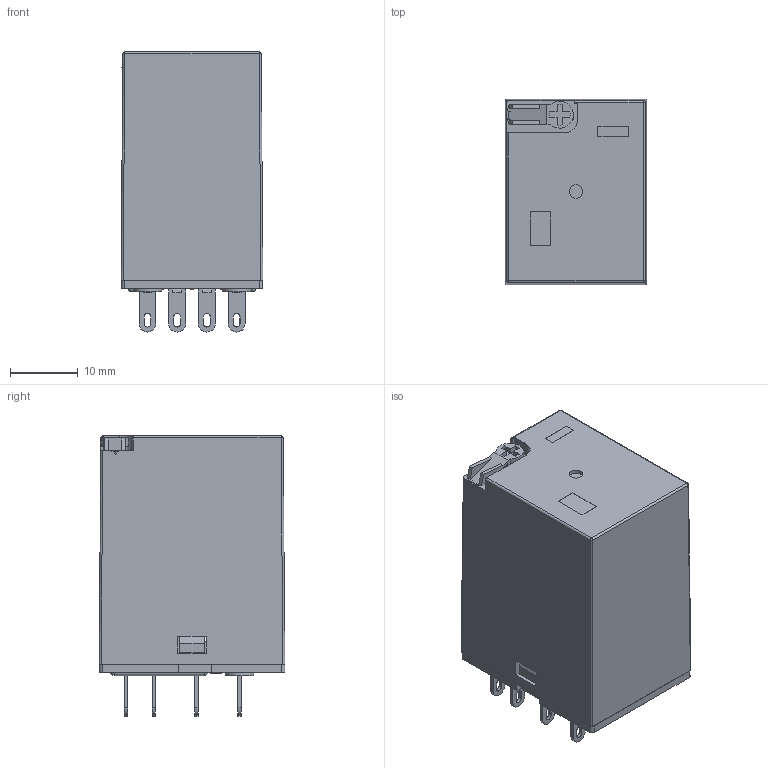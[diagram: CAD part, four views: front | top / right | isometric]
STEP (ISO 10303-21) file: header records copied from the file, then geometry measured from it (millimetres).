
FILE_DESCRIPTION(/* description */ (''),/* implementation_level */ '2;1');
FILE_NAME(/* name */ '18ft-4pl.stp',/* time_stamp */ '2022-11-23T09:15:30+08:00',/* author */ (''),/* organization */ (''),/* preprocessor_version */ 'ST-DEVELOPER v11',/* originating_system */ 'SIEMENS UGS NX 6.0',/* authorisation */ '');
FILE_SCHEMA (('CONFIG_CONTROL_DESIGN'));
Length unit declared in the file: millimetre
Products named in the file (1): 18ft-4pl
Bounding box: 21 x 27.5 x 41.5 mm (x, y, z)
Volume: 6236.7 mm3; surface area: 11223.6 mm2
Topology: 19 solids, 19 shells, 1053 faces, 2813 edges, 1857 vertices
Faces by surface type: plane 840, cylinder 147, extrusion 43, sphere 15, bspline 4, torus 2, cone 2
Full cylindrical faces by diameter (mm): 1.5 x8, 2 x1, 2.4 x1, 3 x1, 4 x1, 4.2 x2, 6.5 x1
Entity records: 33517 total; most frequent: CARTESIAN_POINT 7084, ORIENTED_EDGE 5542, DIRECTION 5057, EDGE_CURVE 2771, VECTOR 2395, LINE 2352, VERTEX_POINT 1847, AXIS2_PLACEMENT_3D 1331
